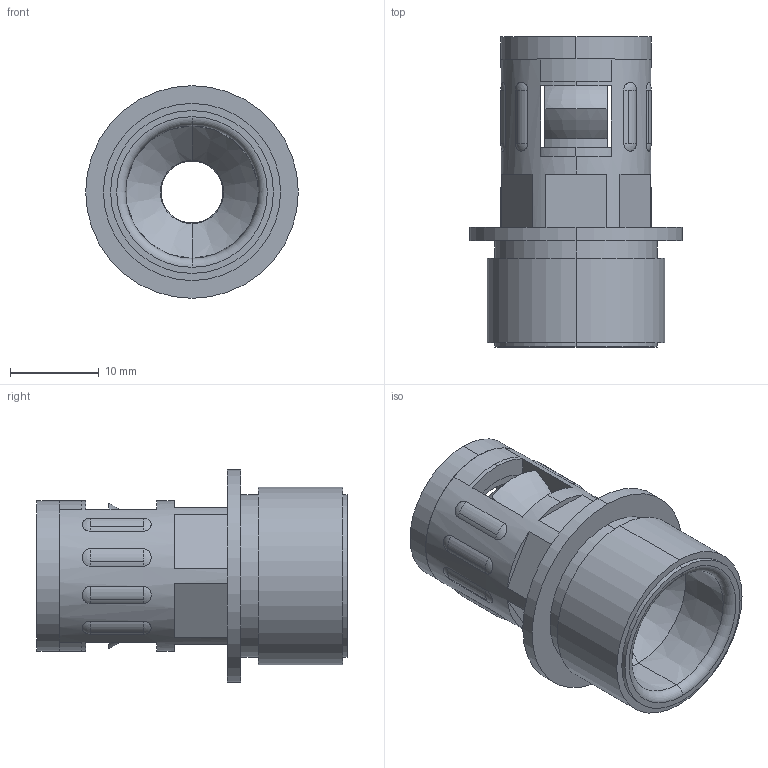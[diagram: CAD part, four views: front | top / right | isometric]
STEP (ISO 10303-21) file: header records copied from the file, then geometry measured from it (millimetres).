
FILE_DESCRIPTION (( 'STEP AP203' ), '1' );
FILE_NAME ('WQG-M20-AD10.0.STEP', '2020-03-11T02:50:42', ( '' ), ( '' ), 'SwSTEP 2.0', 'SolidWorks 2016', '' );
FILE_SCHEMA (( 'CONFIG_CONTROL_DESIGN' ));
Length unit declared in the file: millimetre
Products named in the file (4): NSK-AD10.0; WQG-M20-AD10.0-01; GFD-AD10.0; WQG-M20-AD10.0
Assembly tree (3 placements, depth 2):
  WQG-M20-AD10.0
    WQG-M20-AD10.0-01
    GFD-AD10.0
    NSK-AD10.0
Bounding box: 24 x 35 x 24 mm (x, y, z)
Volume: 4314 mm3; surface area: 6541.4 mm2
Topology: 2 solids, 5 shells, 193 faces, 501 edges, 310 vertices
Faces by surface type: plane 56, cone 55, cylinder 44, torus 22, sphere 16
Entity records: 6611 total; most frequent: CARTESIAN_POINT 1594, DIRECTION 1028, ORIENTED_EDGE 934, EDGE_CURVE 469, AXIS2_PLACEMENT_3D 431, VERTEX_POINT 294, CIRCLE 231, EDGE_LOOP 216
